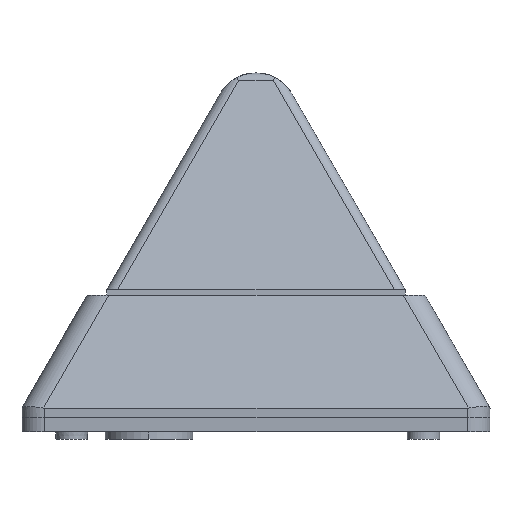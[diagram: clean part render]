
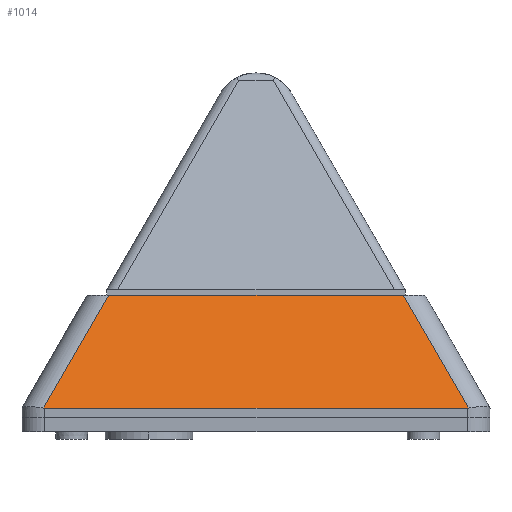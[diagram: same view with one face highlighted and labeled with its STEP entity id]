
A CAD part, front view. The second image highlights one B-rep face of the part: STEP entity #1014.
In plain terms, the highlighted planar face has unit normal (0, -0.94, 0.342).
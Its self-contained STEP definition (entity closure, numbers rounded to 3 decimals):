
#699 = EDGE_CURVE ( 'NONE', #700, #701, #4114, .T. ) ;
#700 = VERTEX_POINT ( 'NONE', #4110 ) ;
#701 = VERTEX_POINT ( 'NONE', #4109 ) ;
#824 = VERTEX_POINT ( 'NONE', #4437 ) ;
#830 = VERTEX_POINT ( 'NONE', #4407 ) ;
#832 = EDGE_CURVE ( 'NONE', #824, #830, #4406, .T. ) ;
#855 = VERTEX_POINT ( 'NONE', #4497 ) ;
#857 = EDGE_CURVE ( 'NONE', #830, #855, #4496, .T. ) ;
#926 = EDGE_LOOP ( 'NONE', ( #993, #994, #995, #996, #999, #1001 ) ) ;
#993 = ORIENTED_EDGE ( 'NONE', *, *, #1010, .T. ) ;
#994 = ORIENTED_EDGE ( 'NONE', *, *, #832, .T. ) ;
#995 = ORIENTED_EDGE ( 'NONE', *, *, #857, .T. ) ;
#996 = ORIENTED_EDGE ( 'NONE', *, *, #997, .T. ) ;
#997 = EDGE_CURVE ( 'NONE', #855, #998, #4749, .T. ) ;
#998 = VERTEX_POINT ( 'NONE', #4745 ) ;
#999 = ORIENTED_EDGE ( 'NONE', *, *, #1000, .T. ) ;
#1000 = EDGE_CURVE ( 'NONE', #998, #700, #4743, .T. ) ;
#1001 = ORIENTED_EDGE ( 'NONE', *, *, #699, .T. ) ;
#1010 = EDGE_CURVE ( 'NONE', #701, #824, #4793, .T. ) ;
#1014 = ADVANCED_FACE ( 'NONE', ( #4795 ), #4821, .T. ) ;
#4109 = CARTESIAN_POINT ( 'NONE',  ( 75.1, -57.118, -90.881 ) ) ;
#4110 = CARTESIAN_POINT ( 'NONE',  ( -75.1, -57.118, -90.881 ) ) ;
#4111 = DIRECTION ( 'NONE',  ( 1., 0., 0. ) ) ;
#4112 = VECTOR ( 'NONE', #4111, 1000. ) ;
#4113 = CARTESIAN_POINT ( 'NONE',  ( 83.1, -57.118, -90.881 ) ) ;
#4114 = LINE ( 'NONE', #4113, #4112 ) ;
#4406 = LINE ( 'NONE', #4457, #4456 ) ;
#4407 = CARTESIAN_POINT ( 'NONE',  ( 52.348, -42.559, -50.881 ) ) ;
#4437 = CARTESIAN_POINT ( 'NONE',  ( 75.431, -57.111, -90.863 ) ) ;
#4455 = DIRECTION ( 'NONE',  ( -0.477, 0.301, 0.826 ) ) ;
#4456 = VECTOR ( 'NONE', #4455, 1000. ) ;
#4457 = CARTESIAN_POINT ( 'NONE',  ( 54.09, -43.657, -53.898 ) ) ;
#4496 = LINE ( 'NONE', #4533, #4532 ) ;
#4497 = CARTESIAN_POINT ( 'NONE',  ( -52.348, -42.559, -50.881 ) ) ;
#4531 = DIRECTION ( 'NONE',  ( -1., 0., 0. ) ) ;
#4532 = VECTOR ( 'NONE', #4531, 1000. ) ;
#4533 = CARTESIAN_POINT ( 'NONE',  ( 83.1, -42.559, -50.881 ) ) ;
#4737 = CARTESIAN_POINT ( 'NONE',  ( -75.1, -57.118, -90.881 ) ) ;
#4738 = CARTESIAN_POINT ( 'NONE',  ( -75.21, -57.118, -90.881 ) ) ;
#4739 = CARTESIAN_POINT ( 'NONE',  ( -75.321, -57.115, -90.875 ) ) ;
#4740 = CARTESIAN_POINT ( 'NONE',  ( -75.431, -57.111, -90.863 ) ) ;
#4743 =( BOUNDED_CURVE ( )  B_SPLINE_CURVE ( 3, ( #4740, #4739, #4738, #4737 ),
 .UNSPECIFIED., .F., .T. ) 
 B_SPLINE_CURVE_WITH_KNOTS ( ( 4, 4 ),
 ( 6.242, 6.283 ),
 .UNSPECIFIED. ) 
 CURVE ( )  GEOMETRIC_REPRESENTATION_ITEM ( )  RATIONAL_B_SPLINE_CURVE ( ( 1., 1., 1., 1. ) ) 
 REPRESENTATION_ITEM ( '' )  );
#4745 = CARTESIAN_POINT ( 'NONE',  ( -75.431, -57.111, -90.863 ) ) ;
#4746 = DIRECTION ( 'NONE',  ( -0.477, -0.301, -0.826 ) ) ;
#4747 = VECTOR ( 'NONE', #4746, 1000. ) ;
#4748 = CARTESIAN_POINT ( 'NONE',  ( -39.389, -34.389, -28.435 ) ) ;
#4749 = LINE ( 'NONE', #4748, #4747 ) ;
#4788 = CARTESIAN_POINT ( 'NONE',  ( 75.431, -57.111, -90.863 ) ) ;
#4789 = CARTESIAN_POINT ( 'NONE',  ( 75.321, -57.115, -90.875 ) ) ;
#4790 = CARTESIAN_POINT ( 'NONE',  ( 75.21, -57.118, -90.881 ) ) ;
#4791 = CARTESIAN_POINT ( 'NONE',  ( 75.1, -57.118, -90.881 ) ) ;
#4793 =( BOUNDED_CURVE ( )  B_SPLINE_CURVE ( 3, ( #4791, #4790, #4789, #4788 ),
 .UNSPECIFIED., .F., .T. ) 
 B_SPLINE_CURVE_WITH_KNOTS ( ( 4, 4 ),
 ( 3.142, 3.183 ),
 .UNSPECIFIED. ) 
 CURVE ( )  GEOMETRIC_REPRESENTATION_ITEM ( )  RATIONAL_B_SPLINE_CURVE ( ( 1., 1., 1., 1. ) ) 
 REPRESENTATION_ITEM ( '' )  );
#4795 = FACE_OUTER_BOUND ( 'NONE', #926, .T. ) ;
#4817 = DIRECTION ( 'NONE',  ( 0., -0.342, -0.94 ) ) ;
#4818 = DIRECTION ( 'NONE',  ( 0., -0.94, 0.342 ) ) ;
#4819 = CARTESIAN_POINT ( 'NONE',  ( 83.1, -57.118, -90.881 ) ) ;
#4820 = AXIS2_PLACEMENT_3D ( 'NONE', #4819, #4818, #4817 ) ;
#4821 = PLANE ( 'NONE',  #4820 ) ;
